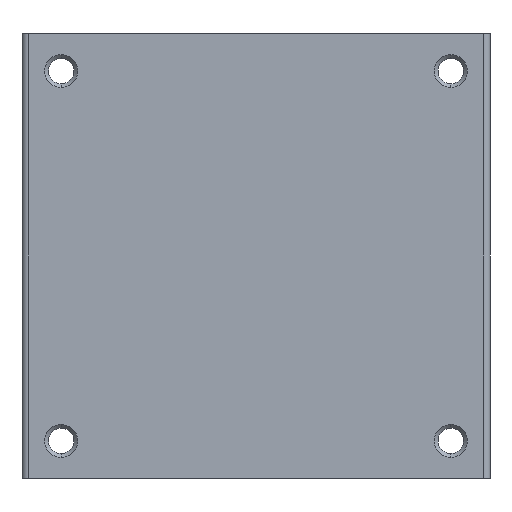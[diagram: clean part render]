
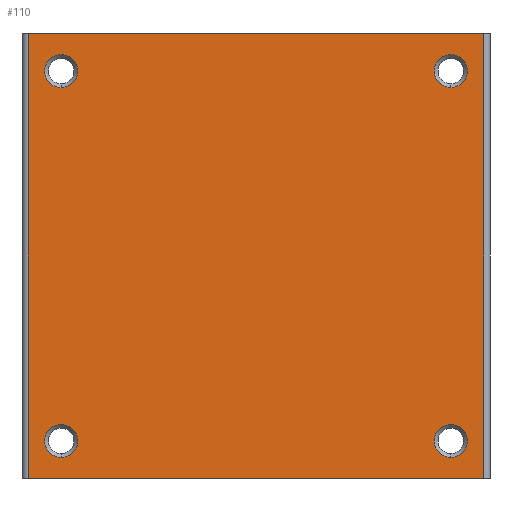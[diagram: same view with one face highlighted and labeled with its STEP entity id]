
A CAD part, front view. The second image highlights one B-rep face of the part: STEP entity #110.
In plain terms, the highlighted planar face has unit normal (0, -1, 0).
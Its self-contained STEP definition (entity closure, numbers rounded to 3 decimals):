
#18 = AXIS2_PLACEMENT_3D ( 'NONE', #1566, #706, #2627 ) ;
#47 = VERTEX_POINT ( 'NONE', #1375 ) ;
#61 = EDGE_CURVE ( 'NONE', #1251, #2262, #2331, .T. ) ;
#89 = DIRECTION ( 'NONE',  ( 0., 0., 1. ) ) ;
#110 = ADVANCED_FACE ( 'NONE', ( #1135, #280, #2202, #1347, #494 ), #2409, .F. ) ;
#120 = DIRECTION ( 'NONE',  ( 0., 0., 1. ) ) ;
#134 = CARTESIAN_POINT ( 'NONE',  ( 55.9, 0., 4.9 ) ) ;
#139 = ORIENTED_EDGE ( 'NONE', *, *, #1157, .T. ) ;
#157 = CARTESIAN_POINT ( 'NONE',  ( 55.9, 0., 55.25 ) ) ;
#232 = CARTESIAN_POINT ( 'NONE',  ( 0., 0., 58. ) ) ;
#241 = CIRCLE ( 'NONE', #1807, 2.15 ) ;
#246 = CARTESIAN_POINT ( 'NONE',  ( 55.9, 0., 7.05 ) ) ;
#280 = FACE_BOUND ( 'NONE', #2106, .T. ) ;
#284 = AXIS2_PLACEMENT_3D ( 'NONE', #1561, #700, #2619 ) ;
#293 = DIRECTION ( 'NONE',  ( 0., 1., 0. ) ) ;
#298 = EDGE_CURVE ( 'NONE', #2262, #1251, #1865, .T. ) ;
#321 = DIRECTION ( 'NONE',  ( 0., 0., 1. ) ) ;
#338 = CIRCLE ( 'NONE', #1903, 2.15 ) ;
#347 = DIRECTION ( 'NONE',  ( 0., 0., 1. ) ) ;
#349 = EDGE_CURVE ( 'NONE', #533, #1557, #2581, .T. ) ;
#399 = ORIENTED_EDGE ( 'NONE', *, *, #1678, .T. ) ;
#472 = ORIENTED_EDGE ( 'NONE', *, *, #2048, .T. ) ;
#489 = VECTOR ( 'NONE', #624, 1000. ) ;
#494 = FACE_OUTER_BOUND ( 'NONE', #704, .T. ) ;
#527 = EDGE_CURVE ( 'NONE', #2091, #1329, #2059, .T. ) ;
#533 = VERTEX_POINT ( 'NONE', #2478 ) ;
#535 = CARTESIAN_POINT ( 'NONE',  ( 5.1, 0., 4.9 ) ) ;
#551 = ORIENTED_EDGE ( 'NONE', *, *, #1295, .T. ) ;
#558 = VECTOR ( 'NONE', #2151, 1000. ) ;
#570 = DIRECTION ( 'NONE',  ( 0., 1., 0. ) ) ;
#624 = DIRECTION ( 'NONE',  ( 0., 0., -1. ) ) ;
#652 = ORIENTED_EDGE ( 'NONE', *, *, #527, .T. ) ;
#653 = AXIS2_PLACEMENT_3D ( 'NONE', #134, #2058, #1205 ) ;
#654 = VERTEX_POINT ( 'NONE', #934 ) ;
#694 = DIRECTION ( 'NONE',  ( 0., 0., 1. ) ) ;
#700 = DIRECTION ( 'NONE',  ( 0., 1., 0. ) ) ;
#704 = EDGE_LOOP ( 'NONE', ( #551, #652, #2323, #399 ) ) ;
#706 = DIRECTION ( 'NONE',  ( 0., 1., 0. ) ) ;
#719 = AXIS2_PLACEMENT_3D ( 'NONE', #535, #2453, #321 ) ;
#735 = LINE ( 'NONE', #2444, #2668 ) ;
#780 = CARTESIAN_POINT ( 'NONE',  ( 5.1, 0., 53.1 ) ) ;
#825 = ORIENTED_EDGE ( 'NONE', *, *, #298, .T. ) ;
#894 = VERTEX_POINT ( 'NONE', #157 ) ;
#934 = CARTESIAN_POINT ( 'NONE',  ( 0.8, 0., 0. ) ) ;
#942 = CARTESIAN_POINT ( 'NONE',  ( 60.2, 0., 58. ) ) ;
#948 = DIRECTION ( 'NONE',  ( 0., 1., 0. ) ) ;
#959 = CARTESIAN_POINT ( 'NONE',  ( 55.9, 0., 50.95 ) ) ;
#978 = DIRECTION ( 'NONE',  ( 0., 1., 0. ) ) ;
#985 = ORIENTED_EDGE ( 'NONE', *, *, #349, .T. ) ;
#998 = EDGE_LOOP ( 'NONE', ( #985, #139 ) ) ;
#1010 = CIRCLE ( 'NONE', #2573, 2.15 ) ;
#1092 = LINE ( 'NONE', #232, #558 ) ;
#1123 = AXIS2_PLACEMENT_3D ( 'NONE', #1151, #293, #2215 ) ;
#1135 = FACE_BOUND ( 'NONE', #998, .T. ) ;
#1148 = CARTESIAN_POINT ( 'NONE',  ( 5.1, 0., 55.25 ) ) ;
#1151 = CARTESIAN_POINT ( 'NONE',  ( 55.9, 0., 4.9 ) ) ;
#1157 = EDGE_CURVE ( 'NONE', #1557, #533, #1929, .T. ) ;
#1205 = DIRECTION ( 'NONE',  ( 0., 0., 1. ) ) ;
#1206 = CARTESIAN_POINT ( 'NONE',  ( 60.2, 0., 58. ) ) ;
#1238 = CIRCLE ( 'NONE', #18, 2.15 ) ;
#1251 = VERTEX_POINT ( 'NONE', #246 ) ;
#1295 = EDGE_CURVE ( 'NONE', #654, #2091, #735, .T. ) ;
#1329 = VERTEX_POINT ( 'NONE', #942 ) ;
#1345 = CARTESIAN_POINT ( 'NONE',  ( 0.8, 0., 58. ) ) ;
#1347 = FACE_BOUND ( 'NONE', #1914, .T. ) ;
#1369 = AXIS2_PLACEMENT_3D ( 'NONE', #1830, #978, #120 ) ;
#1375 = CARTESIAN_POINT ( 'NONE',  ( 5.1, 0., 50.95 ) ) ;
#1399 = EDGE_CURVE ( 'NONE', #47, #2505, #338, .T. ) ;
#1417 = ORIENTED_EDGE ( 'NONE', *, *, #61, .T. ) ;
#1480 = CARTESIAN_POINT ( 'NONE',  ( 0.8, 0., 58. ) ) ;
#1542 = CARTESIAN_POINT ( 'NONE',  ( 60.2, 0., 0. ) ) ;
#1557 = VERTEX_POINT ( 'NONE', #1772 ) ;
#1558 = DIRECTION ( 'NONE',  ( 0., 1., 0. ) ) ;
#1561 = CARTESIAN_POINT ( 'NONE',  ( 0., 0., 58. ) ) ;
#1566 = CARTESIAN_POINT ( 'NONE',  ( 5.1, 0., 53.1 ) ) ;
#1596 = DIRECTION ( 'NONE',  ( 1., 0., 0. ) ) ;
#1678 = EDGE_CURVE ( 'NONE', #2527, #654, #2334, .T. ) ;
#1745 = ORIENTED_EDGE ( 'NONE', *, *, #1936, .T. ) ;
#1772 = CARTESIAN_POINT ( 'NONE',  ( 5.1, 0., 7.05 ) ) ;
#1802 = CARTESIAN_POINT ( 'NONE',  ( 55.9, 0., 53.1 ) ) ;
#1807 = AXIS2_PLACEMENT_3D ( 'NONE', #2406, #1558, #694 ) ;
#1830 = CARTESIAN_POINT ( 'NONE',  ( 5.1, 0., 4.9 ) ) ;
#1865 = CIRCLE ( 'NONE', #653, 2.15 ) ;
#1881 = EDGE_CURVE ( 'NONE', #2062, #894, #1010, .T. ) ;
#1903 = AXIS2_PLACEMENT_3D ( 'NONE', #780, #570, #2487 ) ;
#1914 = EDGE_LOOP ( 'NONE', ( #825, #1417 ) ) ;
#1927 = VECTOR ( 'NONE', #347, 1000. ) ;
#1929 = CIRCLE ( 'NONE', #719, 2.15 ) ;
#1936 = EDGE_CURVE ( 'NONE', #2505, #47, #1238, .T. ) ;
#1982 = EDGE_LOOP ( 'NONE', ( #2209, #472 ) ) ;
#2048 = EDGE_CURVE ( 'NONE', #894, #2062, #241, .T. ) ;
#2058 = DIRECTION ( 'NONE',  ( 0., 1., 0. ) ) ;
#2059 = LINE ( 'NONE', #1206, #1927 ) ;
#2062 = VERTEX_POINT ( 'NONE', #959 ) ;
#2091 = VERTEX_POINT ( 'NONE', #1542 ) ;
#2106 = EDGE_LOOP ( 'NONE', ( #2745, #1745 ) ) ;
#2129 = CARTESIAN_POINT ( 'NONE',  ( 55.9, 0., 2.75 ) ) ;
#2151 = DIRECTION ( 'NONE',  ( 1., 0., 0. ) ) ;
#2188 = EDGE_CURVE ( 'NONE', #2527, #1329, #1092, .T. ) ;
#2202 = FACE_BOUND ( 'NONE', #1982, .T. ) ;
#2209 = ORIENTED_EDGE ( 'NONE', *, *, #1881, .T. ) ;
#2215 = DIRECTION ( 'NONE',  ( 0., 0., 1. ) ) ;
#2262 = VERTEX_POINT ( 'NONE', #2129 ) ;
#2323 = ORIENTED_EDGE ( 'NONE', *, *, #2188, .F. ) ;
#2331 = CIRCLE ( 'NONE', #1123, 2.15 ) ;
#2334 = LINE ( 'NONE', #1480, #489 ) ;
#2406 = CARTESIAN_POINT ( 'NONE',  ( 55.9, 0., 53.1 ) ) ;
#2409 = PLANE ( 'NONE',  #284 ) ;
#2444 = CARTESIAN_POINT ( 'NONE',  ( 0., 0., 0. ) ) ;
#2453 = DIRECTION ( 'NONE',  ( 0., 1., 0. ) ) ;
#2478 = CARTESIAN_POINT ( 'NONE',  ( 5.1, 0., 2.75 ) ) ;
#2487 = DIRECTION ( 'NONE',  ( 0., 0., 1. ) ) ;
#2505 = VERTEX_POINT ( 'NONE', #1148 ) ;
#2527 = VERTEX_POINT ( 'NONE', #1345 ) ;
#2573 = AXIS2_PLACEMENT_3D ( 'NONE', #1802, #948, #89 ) ;
#2581 = CIRCLE ( 'NONE', #1369, 2.15 ) ;
#2619 = DIRECTION ( 'NONE',  ( 0., 0., 1. ) ) ;
#2627 = DIRECTION ( 'NONE',  ( 0., 0., 1. ) ) ;
#2668 = VECTOR ( 'NONE', #1596, 1000. ) ;
#2745 = ORIENTED_EDGE ( 'NONE', *, *, #1399, .T. ) ;
